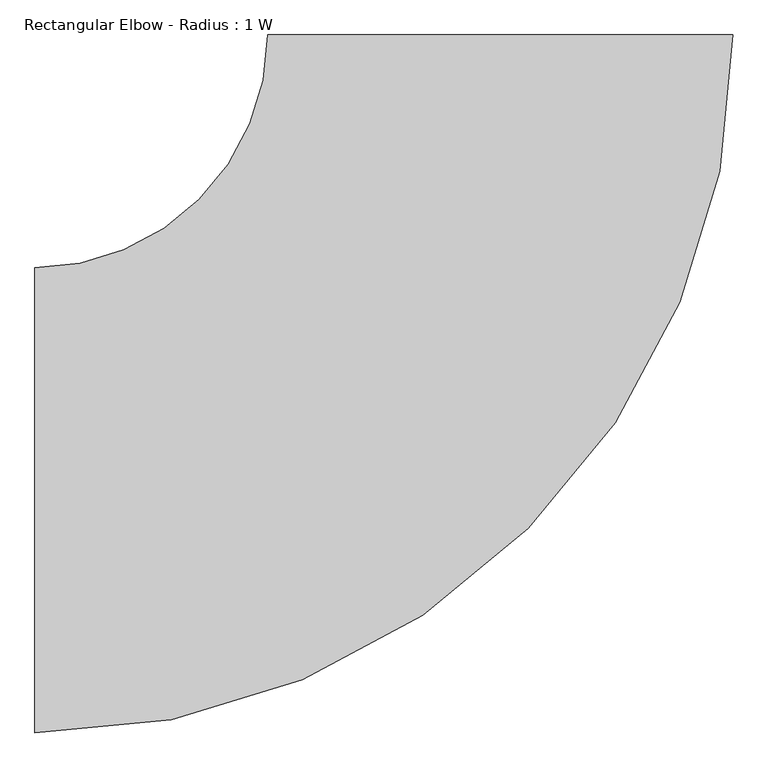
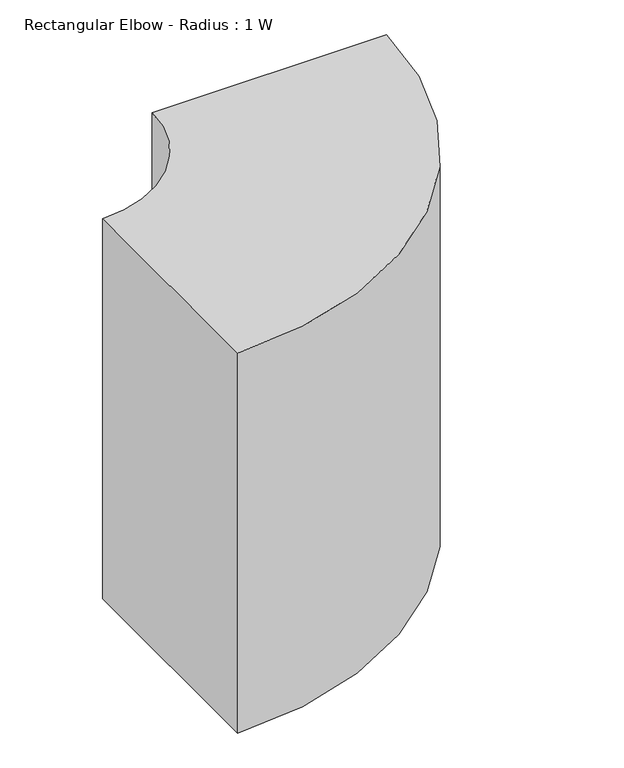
"""IFC4 building model written with IfcOpenShell, lengths in millimetres: duct fitting geometry, Rectangular Elbow - Radius : 1 W."""

from ifc_helpers import new_model, si_unit, point, frame, frame_2d, origin, place, context, project, spatial, polyline, circle_curve, trimmed, segment, composite_curve, outline, extrude, source, transform, mapped, element, save


def rectangular_elbow_radius_1_w_4eb6d3eb(model_context):
    return source(origin(), model_context, "Body", "SweptSolid", [
        extrude(outline(composite_curve([segment(trimmed(circle_curve(frame_2d((-711.2, 711.2)), 1066.8), [point((355.6, 711.2))], [point((-711.2, -355.6))], False, "CARTESIAN"), True, "CONTINUOUS"), segment(polyline([(-711.2, -355.6), (-711.2, 355.6)]), True, "CONTINUOUS"), segment(trimmed(circle_curve(frame_2d((-711.2, 711.2)), 355.6), [point((-711.2, 355.6))], [point((-355.6, 711.2))], True, "CARTESIAN"), True, "CONTINUOUS"), segment(polyline([(-355.6, 711.2), (355.6, 711.2)]), True, "CONTINUOUS")], self_intersect=False)), frame((0.0, 0.0, -609.6), z_axis=(0.0, 0.0, 1.0), x_axis=(1.0, 0.0, 0.0)), (0.0, 0.0, 1.0), 1219.2),
    ])


if __name__ == "__main__":
    model = new_model("IFC4")
    model_context = context("Model", 3, world=origin())
    ifc_project = project(units=[si_unit("LENGTHUNIT", "METRE", prefix="MILLI")], contexts=[model_context])
    site = spatial("IfcSite", under=ifc_project)
    building = spatial("IfcBuilding", under=site)
    placement = place(None, origin())
    rectangular_elbow_radius_1_w_shape = rectangular_elbow_radius_1_w_4eb6d3eb(model_context)
    element("IfcDuctFitting", 1, ObjectType="Rectangular Elbow - Radius : 1 W", at=placement, inside=building, context=model_context, shape_type="MappedRepresentation", body=[
        mapped(rectangular_elbow_radius_1_w_shape, transform((0.0, 0.0, 0.0), x_axis=(1.0, 0.0, 0.0), y_axis=(0.0, 1.0, 0.0), z_axis=(0.0, 0.0, 1.0))),
    ])
    save(model, "model.ifc")
